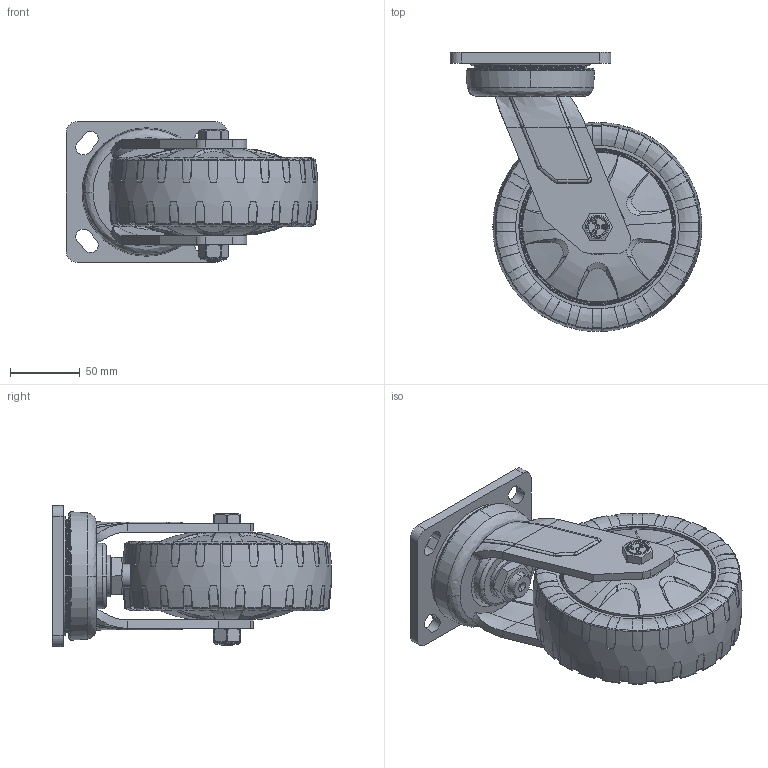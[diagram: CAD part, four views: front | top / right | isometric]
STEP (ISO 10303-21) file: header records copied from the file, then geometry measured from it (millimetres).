
FILE_DESCRIPTION (( 'STEP AP214' ), '1' );
FILE_NAME ('J17-01-150-352.STEP', '2025-10-01T09:52:40', ( '' ), ( '' ), 'SwSTEP 2.0', 'SolidWorks 2022', '' );
FILE_SCHEMA (( 'AUTOMOTIVE_DESIGN' ));
Length unit declared in the file: millimetre
Products named in the file (1): J17-01-150-352
Bounding box: 180.33 x 199.73 x 101 mm (x, y, z)
Volume: 892570.1 mm3; surface area: 429135.9 mm2
Topology: 80 solids, 80 shells, 3766 faces, 10571 edges, 6681 vertices
Faces by surface type: plane 1359, bspline 1050, cylinder 964, cone 393
Entity records: 220281 total; most frequent: CARTESIAN_POINT 95829, ORIENTED_EDGE 20526, DIRECTION 12500, EDGE_CURVE 10263, VERTEX_POINT 6681, B_SPLINE_CURVE_WITH_KNOTS 5108, AXIS2_PLACEMENT_3D 4997, EDGE_LOOP 3972
